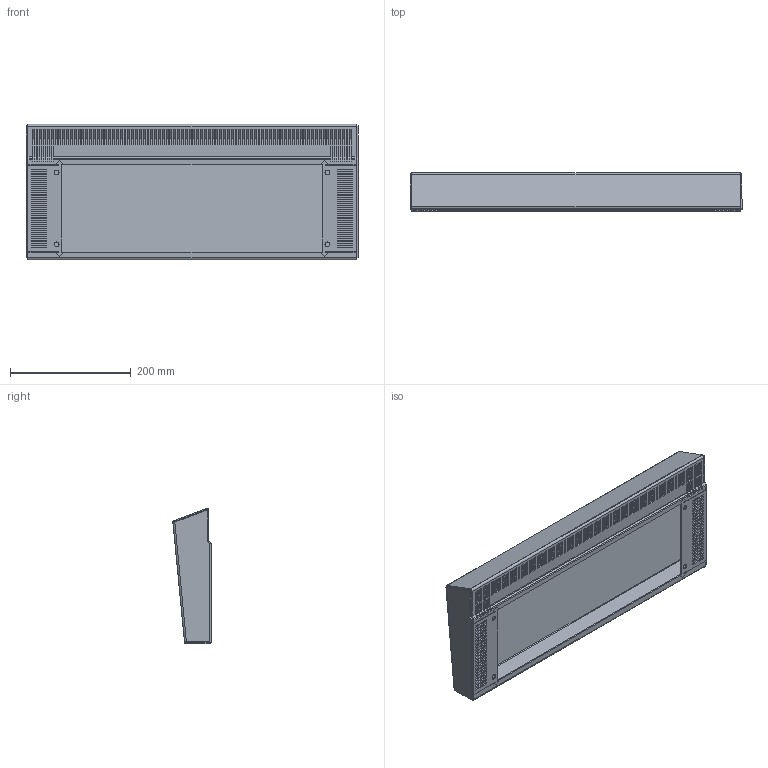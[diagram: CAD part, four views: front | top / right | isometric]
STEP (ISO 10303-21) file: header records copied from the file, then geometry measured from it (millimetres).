
FILE_DESCRIPTION (( 'STEP AP203' ), '1' );
FILE_NAME ('essh5020.STEP', '2013-09-11T18:33:03', ( 'User' ), ( 'Pentair Inc' ), 'SwSTEP 2.0', 'SolidWorks 2010', '' );
FILE_SCHEMA (( 'CONFIG_CONTROL_DESIGN' ));
Length unit declared in the file: inch
Products named in the file (4): essh5020; 89055676; 87554490; 87558717
Assembly tree (4 placements, depth 3):
  essh5020
    89055676
      87558717  x2
      87554490
Bounding box: 550.8 x 63.44 x 224.58 mm (x, y, z)
Volume: 477125.1 mm3; surface area: 492070.8 mm2
Topology: 3 solids, 3 shells, 852 faces, 2354 edges, 1484 vertices
Faces by surface type: plane 774, cylinder 74, bspline 4
Entity records: 24176 total; most frequent: CARTESIAN_POINT 4324, ORIENTED_EDGE 4108, DIRECTION 3686, EDGE_CURVE 2054, VECTOR 1914, LINE 1914, VERTEX_POINT 1284, EDGE_LOOP 964
